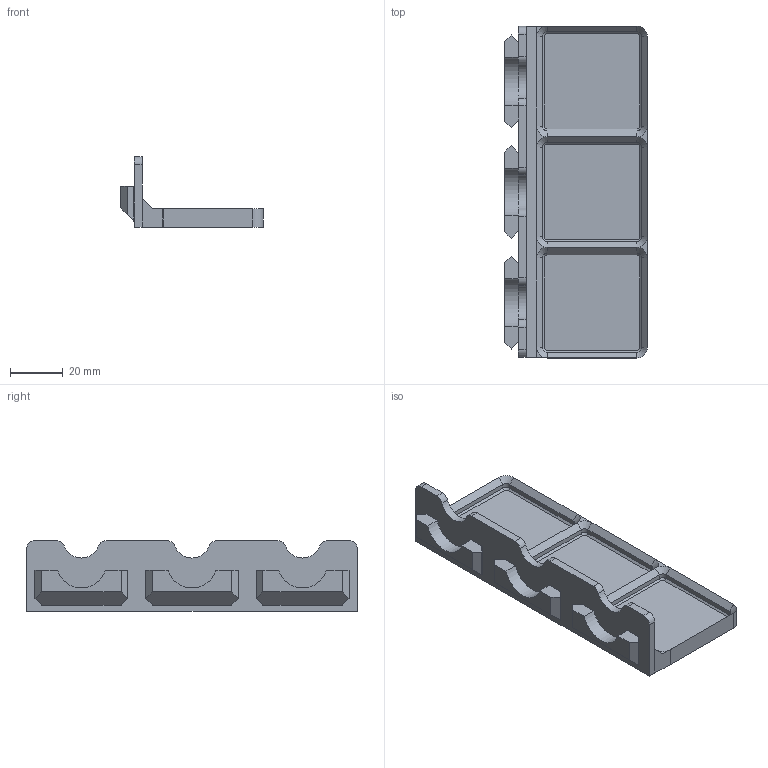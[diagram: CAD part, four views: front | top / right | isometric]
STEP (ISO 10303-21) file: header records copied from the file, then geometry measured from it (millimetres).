
FILE_DESCRIPTION(/* description */ ('','CAx-IF Rec.Pracs.---Representation and Presentation of Product Manufacturing Information (PMI)---4.0---2014-10-13'),/* implementation_level */ '2;1');
FILE_NAME(/* name */ 'Goews Single Hanger Gridfinity 1x3 Base v1.step',/* time_stamp */ '2024-11-27T21:14:05-05:00',/* author */ (''),/* organization */ (''),/* preprocessor_version */ 'ST-DEVELOPER v20',/* originating_system */ 'Autodesk Translation Framework v13.20.0.188',/* authorisation */ '');
FILE_SCHEMA (('AP242_MANAGED_MODEL_BASED_3D_ENGINEERING_MIM_LF { 1 0 10303 442 1 1 4 }'));
Length unit declared in the file: millimetre
Products named in the file (1): Goews Single Hanger Gridfinity 1x3 Base
Bounding box: 54.15 x 126 x 26.72 mm (x, y, z)
Volume: 34240.6 mm3; surface area: 21794.3 mm2
Topology: 1 solids, 1 shells, 158 faces, 369 edges, 216 vertices
Faces by surface type: plane 96, cylinder 38, cone 24
Entity records: 4416 total; most frequent: DIRECTION 777, CARTESIAN_POINT 744, ORIENTED_EDGE 738, EDGE_CURVE 369, LINE 279, VECTOR 279, AXIS2_PLACEMENT_3D 249, VERTEX_POINT 216
